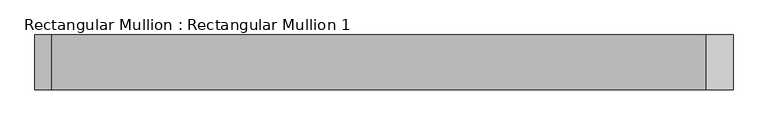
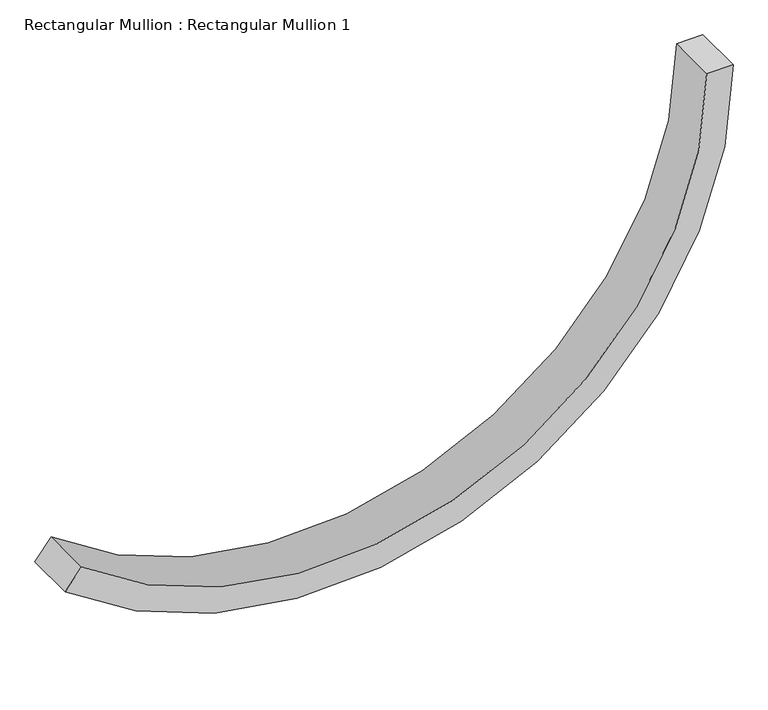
"""IFC4 building model written with IfcOpenShell, lengths in millimetres: member geometry, Rectangular Mullion : Rectangular Mullion 1."""

from ifc_helpers import new_model, si_unit, point, frame, frame_2d, origin, place, context, project, spatial, polyline, circle_curve, trimmed, segment, composite_curve, outline, extrude, source, transform, mapped, element, save


def rectangular_mullion_rectangular_mullion_1_44025b5a(model_context):
    return source(origin(), model_context, "Body", "SweptSolid", [
        extrude(outline(composite_curve([segment(trimmed(circle_curve(frame_2d((0.0, -1000.0)), 1000.0), [point((-784.60181, -1619.9999998))], [point((0.0, 0.0))], False, "CARTESIAN"), True, "CONTINUOUS"), segment(polyline([(0.0, 0.0), (0.0, -63.5)]), True, "CONTINUOUS"), segment(trimmed(circle_curve(frame_2d((0.0, -1000.0)), 936.5), [point((0.0, -63.5))], [point((-734.779595, -1580.6299999))], True, "CARTESIAN"), True, "CONTINUOUS"), segment(polyline([(-734.779595, -1580.6299999), (-784.60181, -1619.9999998)]), True, "CONTINUOUS")], self_intersect=False)), frame((0.0, -63.5, 0.0), z_axis=(0.0, 1.0, 0.0), x_axis=(0.0, 0.0, 1.0)), (0.0, 0.0, 1.0), 127.0),
    ])


if __name__ == "__main__":
    model = new_model("IFC4")
    model_context = context("Model", 3, world=origin())
    ifc_project = project(units=[si_unit("LENGTHUNIT", "METRE", prefix="MILLI")], contexts=[model_context])
    site = spatial("IfcSite", under=ifc_project)
    building = spatial("IfcBuilding", under=site)
    placement = place(None, origin())
    rectangular_mullion_rectangular_mullion_1_shape = rectangular_mullion_rectangular_mullion_1_44025b5a(model_context)
    element("IfcMember", 1, ObjectType="Rectangular Mullion : Rectangular Mullion 1", at=placement, inside=building, context=model_context, shape_type="MappedRepresentation", body=[
        mapped(rectangular_mullion_rectangular_mullion_1_shape, transform((0.0, 0.0, 0.0), x_axis=(1.0, 0.0, 0.0), y_axis=(0.0, 1.0, 0.0), z_axis=(0.0, 0.0, 1.0))),
    ])
    save(model, "model.ifc")
